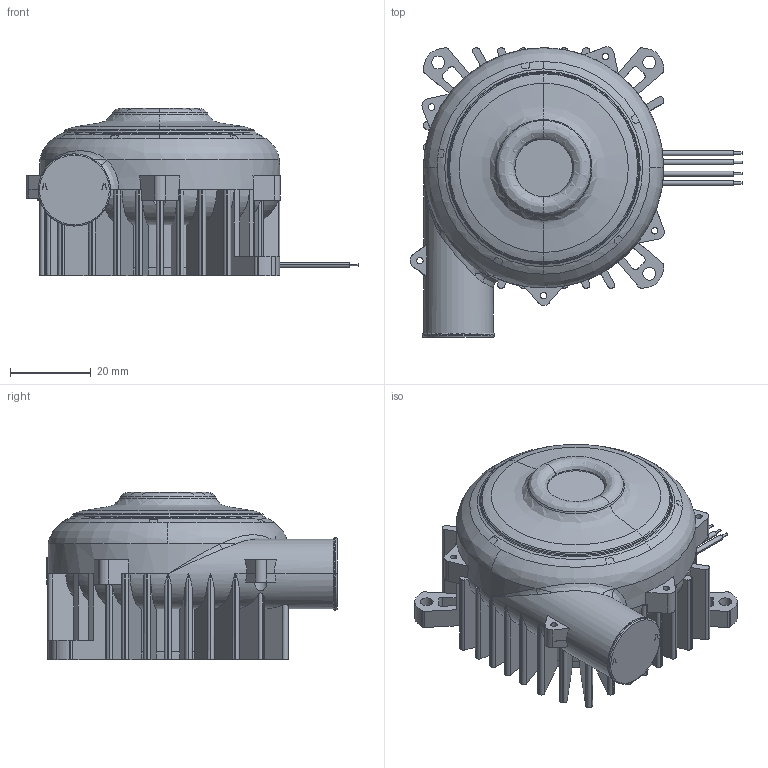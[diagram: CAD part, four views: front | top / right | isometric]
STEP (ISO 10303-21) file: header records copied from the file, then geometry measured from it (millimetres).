
FILE_DESCRIPTION((''),'2;1');
FILE_NAME('7050-C','2026-09-14T15:01:44',('pc'),(''),'CREO PARAMETRIC BY PTC INC, 2018050','CREO PARAMETRIC BY PTC INC, 2018050','');
FILE_SCHEMA(('CONFIG_CONTROL_DESIGN','GEOMETRIC_VALIDATION_PROPERTIES_MIM'));
Length unit declared in the file: millimetre
Products named in the file (1): 7050-C
Bounding box: 82.39 x 72.07 x 41.57 mm (x, y, z)
Volume: 97228.8 mm3; surface area: 25390.3 mm2
Topology: 5 solids, 5 shells, 548 faces, 1613 edges, 1068 vertices
Faces by surface type: cylinder 229, plane 221, cone 34, torus 33, bspline 16, revolution 15
Entity records: 26753 total; most frequent: CARTESIAN_POINT 6565, ORIENTED_EDGE 3226, DIRECTION 2991, PRESENTATION_STYLE_ASSIGNMENT 1699, STYLED_ITEM 1633, CURVE_STYLE 1628, EDGE_CURVE 1613, AXIS2_PLACEMENT_3D 1174
